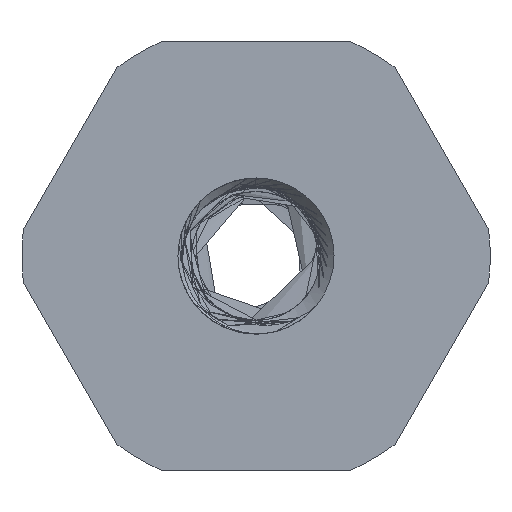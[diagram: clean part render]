
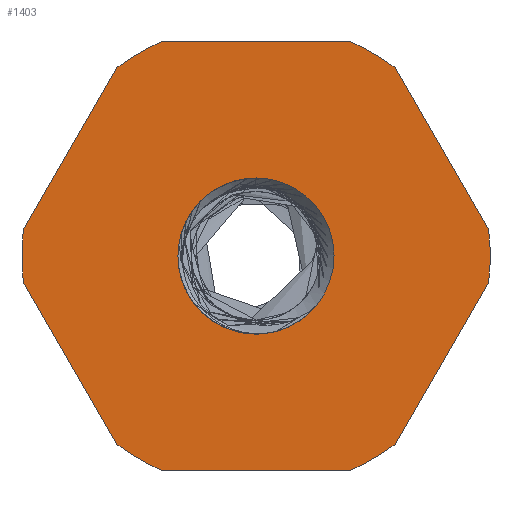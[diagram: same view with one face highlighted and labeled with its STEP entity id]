
A CAD part, front view. The second image highlights one B-rep face of the part: STEP entity #1403.
In plain terms, the highlighted planar face has unit normal (0, -1, 0).
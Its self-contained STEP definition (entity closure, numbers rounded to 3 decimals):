
#184 = CARTESIAN_POINT ( 'NONE',  ( -3.564, 0., -4.827 ) ) ;
#195 = ORIENTED_EDGE ( 'NONE', *, *, #511, .F. ) ;
#255 = CARTESIAN_POINT ( 'NONE',  ( -3.564, 0., 4.827 ) ) ;
#343 = VERTEX_POINT ( 'NONE', #4618 ) ;
#393 = DIRECTION ( 'NONE',  ( 0., 1., 0. ) ) ;
#472 = DIRECTION ( 'NONE',  ( 0., 1., 0. ) ) ;
#511 = EDGE_CURVE ( 'NONE', #6478, #3849, #11151, .T. ) ;
#605 = VECTOR ( 'NONE', #9484, 1000. ) ;
#618 = LINE ( 'NONE', #5841, #5957 ) ;
#774 = CARTESIAN_POINT ( 'NONE',  ( 3.564, 0., -4.827 ) ) ;
#778 = EDGE_CURVE ( 'NONE', #3579, #7462, #9037, .T. ) ;
#784 = ORIENTED_EDGE ( 'NONE', *, *, #8717, .F. ) ;
#1010 = DIRECTION ( 'NONE',  ( -0.5, 0., -0.866 ) ) ;
#1027 = DIRECTION ( 'NONE',  ( 0., 1., 0. ) ) ;
#1143 = CARTESIAN_POINT ( 'NONE',  ( -4.763, 0., 2.75 ) ) ;
#1182 = VERTEX_POINT ( 'NONE', #774 ) ;
#1184 = CARTESIAN_POINT ( 'NONE',  ( 3.564, 0., 4.827 ) ) ;
#1208 = DIRECTION ( 'NONE',  ( -0.5, 0., 0.866 ) ) ;
#1231 = AXIS2_PLACEMENT_3D ( 'NONE', #7458, #11119, #1761 ) ;
#1233 = EDGE_LOOP ( 'NONE', ( #9133, #10865, #12099, #2487 ) ) ;
#1273 = ORIENTED_EDGE ( 'NONE', *, *, #8666, .F. ) ;
#1280 = ORIENTED_EDGE ( 'NONE', *, *, #7371, .F. ) ;
#1322 = PLANE ( 'NONE',  #10561 ) ;
#1403 = ADVANCED_FACE ( 'NONE', ( #12201, #8200 ), #1322, .F. ) ;
#1439 = EDGE_LOOP ( 'NONE', ( #195, #4029, #1273, #3292, #1280, #8176, #5415, #11650, #12002, #8265, #9486, #784 ) ) ;
#1479 = CARTESIAN_POINT ( 'NONE',  ( 0., 0., 0. ) ) ;
#1625 = CIRCLE ( 'NONE', #5696, 2. ) ;
#1761 = DIRECTION ( 'NONE',  ( 0., 0., 1. ) ) ;
#1791 = CARTESIAN_POINT ( 'NONE',  ( 5.962, 0., 0.673 ) ) ;
#1922 = CIRCLE ( 'NONE', #11545, 6. ) ;
#1959 = CARTESIAN_POINT ( 'NONE',  ( 0.239, 0., -1.986 ) ) ;
#1981 = CARTESIAN_POINT ( 'NONE',  ( 0., 0., 0. ) ) ;
#2157 = DIRECTION ( 'NONE',  ( 0., 0., 1. ) ) ;
#2308 = CARTESIAN_POINT ( 'NONE',  ( 0., 0., 2. ) ) ;
#2451 = CARTESIAN_POINT ( 'NONE',  ( 2.398, 0., 5.5 ) ) ;
#2487 = ORIENTED_EDGE ( 'NONE', *, *, #10793, .T. ) ;
#2504 = DIRECTION ( 'NONE',  ( 0., 0., 1. ) ) ;
#2515 = DIRECTION ( 'NONE',  ( 0., 1., 0. ) ) ;
#3020 = EDGE_CURVE ( 'NONE', #7142, #8616, #5756, .T. ) ;
#3292 = ORIENTED_EDGE ( 'NONE', *, *, #778, .F. ) ;
#3321 = DIRECTION ( 'NONE',  ( 0., 0., 1. ) ) ;
#3324 = DIRECTION ( 'NONE',  ( 0., 1., 0. ) ) ;
#3396 = LINE ( 'NONE', #7658, #5618 ) ;
#3434 = AXIS2_PLACEMENT_3D ( 'NONE', #4311, #472, #10915 ) ;
#3481 = AXIS2_PLACEMENT_3D ( 'NONE', #5270, #3324, #9920 ) ;
#3579 = VERTEX_POINT ( 'NONE', #6328 ) ;
#3651 = DIRECTION ( 'NONE',  ( 0., 1., 0. ) ) ;
#3655 = EDGE_CURVE ( 'NONE', #4889, #6478, #8247, .T. ) ;
#3817 = CARTESIAN_POINT ( 'NONE',  ( -4.763, 0., -2.75 ) ) ;
#3849 = VERTEX_POINT ( 'NONE', #2451 ) ;
#4029 = ORIENTED_EDGE ( 'NONE', *, *, #3655, .F. ) ;
#4152 = VERTEX_POINT ( 'NONE', #184 ) ;
#4168 = AXIS2_PLACEMENT_3D ( 'NONE', #10155, #3651, #2504 ) ;
#4227 = VERTEX_POINT ( 'NONE', #1184 ) ;
#4311 = CARTESIAN_POINT ( 'NONE',  ( 0., 0., 0. ) ) ;
#4432 = CIRCLE ( 'NONE', #5030, 2. ) ;
#4452 = CIRCLE ( 'NONE', #3481, 2. ) ;
#4568 = VECTOR ( 'NONE', #6188, 1000. ) ;
#4618 = CARTESIAN_POINT ( 'NONE',  ( 5.962, 0., -0.673 ) ) ;
#4832 = DIRECTION ( 'NONE',  ( -1., 0., 0. ) ) ;
#4867 = VECTOR ( 'NONE', #1208, 1000. ) ;
#4889 = VERTEX_POINT ( 'NONE', #255 ) ;
#5030 = AXIS2_PLACEMENT_3D ( 'NONE', #8195, #2515, #5396 ) ;
#5075 = DIRECTION ( 'NONE',  ( 0., 1., 0. ) ) ;
#5270 = CARTESIAN_POINT ( 'NONE',  ( 0., 0., 0. ) ) ;
#5301 = VERTEX_POINT ( 'NONE', #1959 ) ;
#5396 = DIRECTION ( 'NONE',  ( 0., 0., 1. ) ) ;
#5415 = ORIENTED_EDGE ( 'NONE', *, *, #8001, .F. ) ;
#5487 = LINE ( 'NONE', #3817, #4867 ) ;
#5556 = VERTEX_POINT ( 'NONE', #11811 ) ;
#5618 = VECTOR ( 'NONE', #4832, 1000. ) ;
#5639 = DIRECTION ( 'NONE',  ( 0., 1., 0. ) ) ;
#5694 = EDGE_CURVE ( 'NONE', #4227, #12092, #10220, .T. ) ;
#5696 = AXIS2_PLACEMENT_3D ( 'NONE', #10293, #5639, #8480 ) ;
#5756 = CIRCLE ( 'NONE', #4168, 2. ) ;
#5841 = CARTESIAN_POINT ( 'NONE',  ( 4.763, 0., -2.75 ) ) ;
#5946 = CARTESIAN_POINT ( 'NONE',  ( -2.398, 0., 5.5 ) ) ;
#5957 = VECTOR ( 'NONE', #1010, 1000. ) ;
#6062 = EDGE_CURVE ( 'NONE', #5556, #4152, #9009, .T. ) ;
#6188 = DIRECTION ( 'NONE',  ( 0.5, 0., 0.866 ) ) ;
#6328 = CARTESIAN_POINT ( 'NONE',  ( -5.962, 0., -0.673 ) ) ;
#6478 = VERTEX_POINT ( 'NONE', #5946 ) ;
#6576 = EDGE_CURVE ( 'NONE', #1182, #11721, #11123, .T. ) ;
#6786 = CARTESIAN_POINT ( 'NONE',  ( 1.553, 0., -1.261 ) ) ;
#6844 = AXIS2_PLACEMENT_3D ( 'NONE', #8862, #10810, #9808 ) ;
#7142 = VERTEX_POINT ( 'NONE', #9411 ) ;
#7189 = DIRECTION ( 'NONE',  ( 0.5, 0., -0.866 ) ) ;
#7371 = EDGE_CURVE ( 'NONE', #4152, #3579, #5487, .T. ) ;
#7458 = CARTESIAN_POINT ( 'NONE',  ( 0., 0., 0. ) ) ;
#7462 = VERTEX_POINT ( 'NONE', #9897 ) ;
#7658 = CARTESIAN_POINT ( 'NONE',  ( 0., 0., -5.5 ) ) ;
#7713 = VECTOR ( 'NONE', #7189, 1000. ) ;
#7742 = CARTESIAN_POINT ( 'NONE',  ( 2.398, 0., -5.5 ) ) ;
#7817 = LINE ( 'NONE', #1143, #4568 ) ;
#7836 = EDGE_CURVE ( 'NONE', #9046, #5301, #4432, .T. ) ;
#8001 = EDGE_CURVE ( 'NONE', #11721, #5556, #3396, .T. ) ;
#8038 = DIRECTION ( 'NONE',  ( 0., 0., 1. ) ) ;
#8053 = CARTESIAN_POINT ( 'NONE',  ( 4.763, 0., 2.75 ) ) ;
#8176 = ORIENTED_EDGE ( 'NONE', *, *, #6062, .F. ) ;
#8195 = CARTESIAN_POINT ( 'NONE',  ( 0., 0., 0. ) ) ;
#8200 = FACE_OUTER_BOUND ( 'NONE', #1439, .T. ) ;
#8247 = CIRCLE ( 'NONE', #1231, 6. ) ;
#8265 = ORIENTED_EDGE ( 'NONE', *, *, #10525, .F. ) ;
#8480 = DIRECTION ( 'NONE',  ( 0., 0., 1. ) ) ;
#8610 = DIRECTION ( 'NONE',  ( 0., 0., 1. ) ) ;
#8616 = VERTEX_POINT ( 'NONE', #2308 ) ;
#8666 = EDGE_CURVE ( 'NONE', #7462, #4889, #7817, .T. ) ;
#8689 = CIRCLE ( 'NONE', #8739, 6. ) ;
#8717 = EDGE_CURVE ( 'NONE', #3849, #4227, #8689, .T. ) ;
#8739 = AXIS2_PLACEMENT_3D ( 'NONE', #10926, #393, #8038 ) ;
#8862 = CARTESIAN_POINT ( 'NONE',  ( 0., 0., 0. ) ) ;
#9009 = CIRCLE ( 'NONE', #3434, 6. ) ;
#9037 = CIRCLE ( 'NONE', #10000, 6. ) ;
#9046 = VERTEX_POINT ( 'NONE', #6786 ) ;
#9075 = EDGE_CURVE ( 'NONE', #343, #1182, #618, .T. ) ;
#9133 = ORIENTED_EDGE ( 'NONE', *, *, #7836, .T. ) ;
#9411 = CARTESIAN_POINT ( 'NONE',  ( 0., 0., -2. ) ) ;
#9484 = DIRECTION ( 'NONE',  ( 1., 0., 0. ) ) ;
#9486 = ORIENTED_EDGE ( 'NONE', *, *, #5694, .F. ) ;
#9563 = CARTESIAN_POINT ( 'NONE',  ( 0., 0., 5.5 ) ) ;
#9808 = DIRECTION ( 'NONE',  ( 0., 0., 1. ) ) ;
#9897 = CARTESIAN_POINT ( 'NONE',  ( -5.962, 0., 0.673 ) ) ;
#9920 = DIRECTION ( 'NONE',  ( 0., 0., 1. ) ) ;
#10000 = AXIS2_PLACEMENT_3D ( 'NONE', #1981, #1027, #8610 ) ;
#10155 = CARTESIAN_POINT ( 'NONE',  ( 0., 0., 0. ) ) ;
#10220 = LINE ( 'NONE', #8053, #7713 ) ;
#10293 = CARTESIAN_POINT ( 'NONE',  ( 0., 0., 0. ) ) ;
#10525 = EDGE_CURVE ( 'NONE', #12092, #343, #1922, .T. ) ;
#10561 = AXIS2_PLACEMENT_3D ( 'NONE', #10721, #5075, #2157 ) ;
#10721 = CARTESIAN_POINT ( 'NONE',  ( 0., 0., 0. ) ) ;
#10793 = EDGE_CURVE ( 'NONE', #8616, #9046, #1625, .T. ) ;
#10810 = DIRECTION ( 'NONE',  ( 0., 1., 0. ) ) ;
#10865 = ORIENTED_EDGE ( 'NONE', *, *, #11302, .T. ) ;
#10886 = DIRECTION ( 'NONE',  ( 0., 1., 0. ) ) ;
#10915 = DIRECTION ( 'NONE',  ( 0., 0., 1. ) ) ;
#10926 = CARTESIAN_POINT ( 'NONE',  ( 0., 0., 0. ) ) ;
#11119 = DIRECTION ( 'NONE',  ( 0., 1., 0. ) ) ;
#11123 = CIRCLE ( 'NONE', #6844, 6. ) ;
#11151 = LINE ( 'NONE', #9563, #605 ) ;
#11302 = EDGE_CURVE ( 'NONE', #5301, #7142, #4452, .T. ) ;
#11545 = AXIS2_PLACEMENT_3D ( 'NONE', #1479, #10886, #3321 ) ;
#11650 = ORIENTED_EDGE ( 'NONE', *, *, #6576, .F. ) ;
#11721 = VERTEX_POINT ( 'NONE', #7742 ) ;
#11811 = CARTESIAN_POINT ( 'NONE',  ( -2.398, 0., -5.5 ) ) ;
#12002 = ORIENTED_EDGE ( 'NONE', *, *, #9075, .F. ) ;
#12092 = VERTEX_POINT ( 'NONE', #1791 ) ;
#12099 = ORIENTED_EDGE ( 'NONE', *, *, #3020, .T. ) ;
#12201 = FACE_BOUND ( 'NONE', #1233, .T. ) ;
